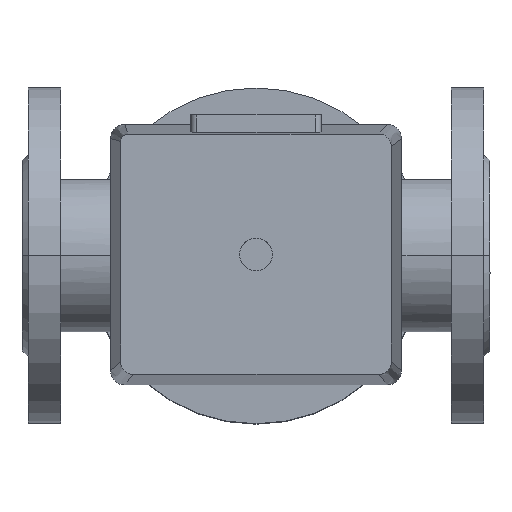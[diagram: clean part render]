
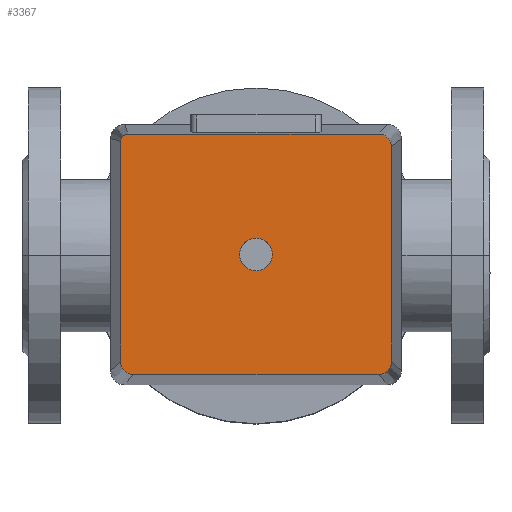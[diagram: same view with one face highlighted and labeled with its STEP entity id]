
A CAD part, top view. The second image highlights one B-rep face of the part: STEP entity #3367.
In plain terms, the highlighted planar face has unit normal (0, 0, 1).
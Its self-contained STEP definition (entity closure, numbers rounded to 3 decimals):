
#312=LINE('',#5687,#528);
#313=LINE('',#5691,#529);
#314=LINE('',#5695,#530);
#315=LINE('',#5699,#531);
#528=VECTOR('',#4638,304.8);
#529=VECTOR('',#4641,304.8);
#530=VECTOR('',#4644,304.8);
#531=VECTOR('',#4647,304.8);
#874=FACE_OUTER_BOUND('',#1109,.T.);
#1109=EDGE_LOOP('',(#2728,#2729,#2730,#2731,#2732,#2733,#2734,#2735));
#1330=CIRCLE('',#3749,6.);
#1331=CIRCLE('',#3750,6.);
#1332=CIRCLE('',#3751,3.5);
#1333=CIRCLE('',#3752,6.);
#1598=VERTEX_POINT('',#5685);
#1599=VERTEX_POINT('',#5686);
#1600=VERTEX_POINT('',#5688);
#1601=VERTEX_POINT('',#5690);
#1602=VERTEX_POINT('',#5692);
#1603=VERTEX_POINT('',#5694);
#1604=VERTEX_POINT('',#5696);
#1605=VERTEX_POINT('',#5698);
#1990=EDGE_CURVE('',#1598,#1599,#312,.T.);
#1991=EDGE_CURVE('',#1599,#1600,#1330,.T.);
#1992=EDGE_CURVE('',#1600,#1601,#313,.T.);
#1993=EDGE_CURVE('',#1601,#1602,#1331,.T.);
#1994=EDGE_CURVE('',#1602,#1603,#314,.T.);
#1995=EDGE_CURVE('',#1603,#1604,#1332,.T.);
#1996=EDGE_CURVE('',#1604,#1605,#315,.T.);
#1997=EDGE_CURVE('',#1605,#1598,#1333,.T.);
#2728=ORIENTED_EDGE('',*,*,#1990,.T.);
#2729=ORIENTED_EDGE('',*,*,#1991,.T.);
#2730=ORIENTED_EDGE('',*,*,#1992,.T.);
#2731=ORIENTED_EDGE('',*,*,#1993,.T.);
#2732=ORIENTED_EDGE('',*,*,#1994,.T.);
#2733=ORIENTED_EDGE('',*,*,#1995,.T.);
#2734=ORIENTED_EDGE('',*,*,#1996,.T.);
#2735=ORIENTED_EDGE('',*,*,#1997,.T.);
#3045=PLANE('',#3748);
#3367=ADVANCED_FACE('',(#874),#3045,.T.);
#3748=AXIS2_PLACEMENT_3D('',#5684,#4636,#4637);
#3749=AXIS2_PLACEMENT_3D('',#5689,#4639,#4640);
#3750=AXIS2_PLACEMENT_3D('',#5693,#4642,#4643);
#3751=AXIS2_PLACEMENT_3D('',#5697,#4645,#4646);
#3752=AXIS2_PLACEMENT_3D('',#5700,#4648,#4649);
#4636=DIRECTION('center_axis',(0.,0.,1.));
#4637=DIRECTION('ref_axis',(0.,-1.,0.));
#4638=DIRECTION('',(0.,-1.,0.));
#4639=DIRECTION('center_axis',(0.,0.,1.));
#4640=DIRECTION('ref_axis',(1.,0.,0.));
#4641=DIRECTION('',(1.,0.,0.));
#4642=DIRECTION('center_axis',(0.,0.,1.));
#4643=DIRECTION('ref_axis',(1.,0.,0.));
#4644=DIRECTION('',(0.,1.,0.));
#4645=DIRECTION('center_axis',(0.,0.,1.));
#4646=DIRECTION('ref_axis',(1.,0.,0.));
#4647=DIRECTION('',(-1.,0.,0.));
#4648=DIRECTION('center_axis',(0.,0.,1.));
#4649=DIRECTION('ref_axis',(1.,0.,0.));
#5684=CARTESIAN_POINT('Origin',(0.313,0.313,294.));
#5685=CARTESIAN_POINT('',(-59.,60.5,294.));
#5686=CARTESIAN_POINT('',(-59.,-60.5,294.));
#5687=CARTESIAN_POINT('',(-59.,-60.5,294.));
#5688=CARTESIAN_POINT('',(-53.,-66.5,294.));
#5689=CARTESIAN_POINT('Origin',(-53.,-60.5,294.));
#5690=CARTESIAN_POINT('',(53.,-66.5,294.));
#5691=CARTESIAN_POINT('',(53.,-66.5,294.));
#5692=CARTESIAN_POINT('',(59.,-60.5,294.));
#5693=CARTESIAN_POINT('Origin',(53.,-60.5,294.));
#5694=CARTESIAN_POINT('',(59.,63.,294.));
#5695=CARTESIAN_POINT('',(59.,63.,294.));
#5696=CARTESIAN_POINT('',(55.5,66.5,294.));
#5697=CARTESIAN_POINT('Origin',(55.5,63.,294.));
#5698=CARTESIAN_POINT('',(-53.,66.5,294.));
#5699=CARTESIAN_POINT('',(-53.,66.5,294.));
#5700=CARTESIAN_POINT('Origin',(-53.,60.5,294.));
